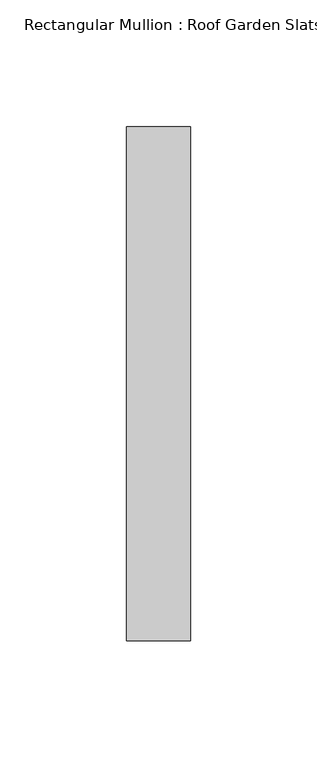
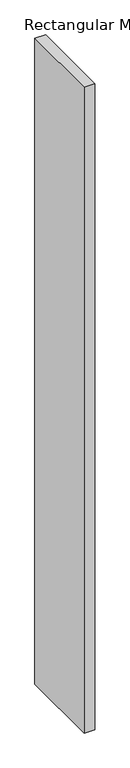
"""IFC4 building model written with IfcOpenShell, lengths in millimetres: member geometry, Rectangular Mullion : Roof Garden Slats."""

from ifc_helpers import new_model, si_unit, frame, origin, place, context, project, spatial, polyline, outline, extrude, source, transform, mapped, element, save


def rectangular_mullion_roof_garden_slats_850998cb(model_context):
    return source(origin(), model_context, "Body", "SweptSolid", [
        extrude(outline(polyline([(12.7, 139.7), (12.7, -63.5), (-12.7, -63.5), (-12.7, 139.7), (12.7, 139.7)])), frame((0.0, 0.0, -1622.0249001), z_axis=(0.0, 0.0, 1.0), x_axis=(1.0, 0.0, 0.0)), (0.0, 0.0, 1.0), 1622.0249001),
    ])


if __name__ == "__main__":
    model = new_model("IFC4")
    model_context = context("Model", 3, world=origin())
    ifc_project = project(units=[si_unit("LENGTHUNIT", "METRE", prefix="MILLI")], contexts=[model_context])
    site = spatial("IfcSite", under=ifc_project)
    building = spatial("IfcBuilding", under=site)
    placement = place(None, origin())
    rectangular_mullion_roof_garden_slats_shape = rectangular_mullion_roof_garden_slats_850998cb(model_context)
    element("IfcMember", 1, ObjectType="Rectangular Mullion : Roof Garden Slats", at=placement, inside=building, context=model_context, shape_type="MappedRepresentation", body=[
        mapped(rectangular_mullion_roof_garden_slats_shape, transform((0.0, 0.0, 0.0), x_axis=(1.0, 0.0, 0.0), y_axis=(0.0, 1.0, 0.0), z_axis=(0.0, 0.0, 1.0))),
    ])
    save(model, "model.ifc")
